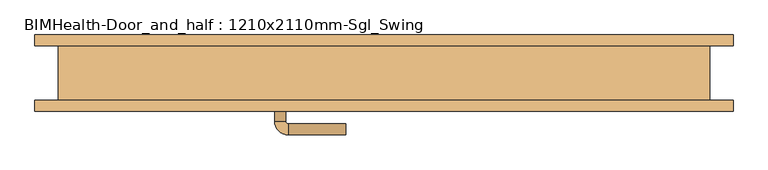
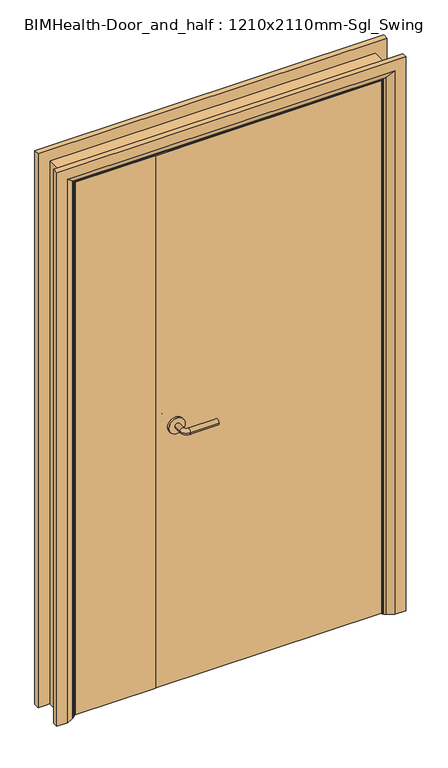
"""IFC4 building model written with IfcOpenShell, lengths in millimetres: door geometry, BIMHealth-Door_and_half : 1210x2110mm-Sgl_Swing."""

from ifc_helpers import new_model, si_unit, point, frame, frame_2d, origin, place, context, project, spatial, polyline, circle_curve, ellipse_curve, trimmed, segment, composite_curve, outline, extrude, faceted_brep, source, transform, mapped, element, save
from ifc_brep_helpers import plane_surface, cylinder_surface, revolved_surface, advanced_brep


def bimhealth_door_and_half_1210x2110mm_sgl_swing_70a7d20a(model_context):
    return source(origin(), model_context, "Body", "SolidModel", [
        advanced_brep(
        [(38.5, -10.0, 1000.0), (58.5, -10.0, 1000.0), (38.5, 20.0, 1000.0), (58.5, 20.0, 1000.0), (63.5, 25.0, 1000.0), (63.5, 45.0, 1000.0), (168.5, 45.0, 1000.0), (168.5, 25.0, 1000.0)],
        [
            (0, 1, circle_curve(frame((48.5, -10.0, 1000.0), z_axis=(0.0, -1.0, 0.0), x_axis=(1.0, 0.0, 0.0)), 10.0)),
            (1, 0, circle_curve(frame((48.5, -10.0, 1000.0), z_axis=(0.0, -1.0, 0.0), x_axis=(1.0, 0.0, 0.0)), 10.0)),
            (0, 2),
            (2, 3, circle_curve(frame((48.5, 20.0, 1000.0), z_axis=(0.0, -1.0, 0.0), x_axis=(1.0, 0.0, 0.0)), 10.0)),
            (3, 1),
            (3, 2, circle_curve(frame((48.5, 20.0, 1000.0), z_axis=(0.0, -1.0, 0.0), x_axis=(1.0, 0.0, 0.0)), 10.0)),
            (4, 3, circle_curve(frame((63.5, 20.0, 1000.0), z_axis=(0.0, 0.0, 1.0), x_axis=(-1.0, 0.0, 0.0)), 5.0)),
            (2, 5, circle_curve(frame((63.5, 20.0, 1000.0), z_axis=(0.0, 0.0, -1.0), x_axis=(-1.0, 0.0, 0.0)), 25.0)),
            (5, 4, circle_curve(frame((63.5, 35.0, 1000.0), z_axis=(-1.0, 0.0, 0.0), x_axis=(0.0, -1.0, 0.0)), 10.0)),
            (4, 5, circle_curve(frame((63.5, 35.0, 1000.0), z_axis=(-1.0, 0.0, 0.0), x_axis=(0.0, -1.0, 0.0)), 10.0)),
            (6, 7, circle_curve(frame((168.5, 35.0, 1000.0), z_axis=(1.0, 0.0, 0.0), x_axis=(0.0, -1.0, 0.0)), 10.0)),
            (7, 6, circle_curve(frame((168.5, 35.0, 1000.0), z_axis=(1.0, 0.0, 0.0), x_axis=(0.0, -1.0, 0.0)), 10.0)),
            (5, 6),
            (7, 4),
        ],
        [
            plane_surface(frame((48.5, -10.0, 1000.0), z_axis=(0.0, -1.0, 0.0), x_axis=(0.0, 0.0, 1.0))),
            cylinder_surface(frame((48.5, -10.0, 1000.0), z_axis=(0.0, -1.0, 0.0), x_axis=(1.0, 0.0, 0.0)), 10.0),
            revolved_surface(trimmed(ellipse_curve(frame((48.5, 20.0, 1000.0), z_axis=(0.0, -1.0, 0.0), x_axis=(1.0, 0.0, 0.0)), 10.0, 10.0), [point((38.5, 20.0, 1000.0))], [point((58.5, 20.0, 1000.0))], True, "CARTESIAN"), (63.5, 20.0, 1000.0), (0.0, 0.0, -1.0)),
            revolved_surface(trimmed(ellipse_curve(frame((48.5, 20.0, 1000.0), z_axis=(0.0, -1.0, 0.0), x_axis=(1.0, 0.0, 0.0)), 10.0, 10.0), [point((58.5, 20.0, 1000.0))], [point((38.5, 20.0, 1000.0))], True, "CARTESIAN"), (63.5, 20.0, 1000.0), (0.0, 0.0, -1.0)),
            plane_surface(frame((168.5, 35.0, 1000.0), z_axis=(1.0, 0.0, 0.0), x_axis=(0.0, 0.0, 1.0))),
            cylinder_surface(frame((63.5, 35.0, 1000.0), z_axis=(-1.0, 0.0, 0.0), x_axis=(0.0, -1.0, 0.0)), 10.0),
        ],
        [
            (0, [[1, 2]]),
            (1, [[-1, 3, 4, 5]]),
            (1, [[-2, -5, 6, -3]]),
            (2, [[7, -4, 8, 9]]),
            (3, [[-8, -6, -7, 10]]),
            (4, [[11, 12]]),
            (5, [[-9, 13, -12, 14]]),
            (5, [[-10, -14, -11, -13]]),
        ],
    ),
        extrude(outline(composite_curve([segment(trimmed(circle_curve(frame_2d((1000.0, 46.0)), 30.0), [point((1000.0, 16.0))], [point((1000.0, 76.0))], False, "CARTESIAN"), True, "CONTINUOUS"), segment(trimmed(circle_curve(frame_2d((1000.0, 46.0)), 30.0), [point((1000.0, 76.0))], [point((1000.0, 16.0))], False, "CARTESIAN"), True, "CONTINUOUS")], self_intersect=False)), frame((0.0, -18.0, 0.0), z_axis=(0.0, 1.0, 0.0), x_axis=(0.0, 0.0, 1.0)), (0.0, 0.0, 1.0), 8.0),
        advanced_brep(
        [(38.5, -58.0, 1000.0), (58.5, -58.0, 1000.0), (58.5, -88.0, 1000.0), (38.5, -88.0, 1000.0), (63.5, -93.0, 1000.0), (63.5, -113.0, 1000.0), (168.5, -113.0, 1000.0), (168.5, -93.0, 1000.0)],
        [
            (0, 1, circle_curve(frame((48.5, -58.0, 1000.0), z_axis=(0.0, 1.0, 0.0), x_axis=(1.0, 0.0, 0.0)), 10.0)),
            (1, 0, circle_curve(frame((48.5, -58.0, 1000.0), z_axis=(0.0, 1.0, 0.0), x_axis=(1.0, 0.0, 0.0)), 10.0)),
            (1, 2),
            (2, 3, circle_curve(frame((48.5, -88.0, 1000.0), z_axis=(0.0, 1.0, 0.0), x_axis=(1.0, 0.0, 0.0)), 10.0)),
            (3, 0),
            (3, 2, circle_curve(frame((48.5, -88.0, 1000.0), z_axis=(0.0, 1.0, 0.0), x_axis=(1.0, 0.0, 0.0)), 10.0)),
            (4, 5, circle_curve(frame((63.5, -103.0, 1000.0), z_axis=(-1.0, 0.0, 0.0), x_axis=(0.0, 1.0, 0.0)), 10.0)),
            (5, 3, circle_curve(frame((63.5, -88.0, 1000.0), z_axis=(0.0, 0.0, -1.0), x_axis=(-1.0, 0.0, 0.0)), 25.0)),
            (2, 4, circle_curve(frame((63.5, -88.0, 1000.0), z_axis=(0.0, 0.0, 1.0), x_axis=(-1.0, 0.0, 0.0)), 5.0)),
            (5, 4, circle_curve(frame((63.5, -103.0, 1000.0), z_axis=(-1.0, 0.0, 0.0), x_axis=(0.0, 1.0, 0.0)), 10.0)),
            (6, 7, circle_curve(frame((168.5, -103.0, 1000.0), z_axis=(1.0, 0.0, 0.0), x_axis=(0.0, 1.0, 0.0)), 10.0)),
            (7, 6, circle_curve(frame((168.5, -103.0, 1000.0), z_axis=(1.0, 0.0, 0.0), x_axis=(0.0, 1.0, 0.0)), 10.0)),
            (4, 7),
            (6, 5),
        ],
        [
            plane_surface(frame((48.5, -58.0, 1000.0), z_axis=(0.0, 1.0, 0.0), x_axis=(0.0, 0.0, 1.0))),
            cylinder_surface(frame((48.5, -58.0, 1000.0), z_axis=(0.0, 1.0, 0.0), x_axis=(1.0, 0.0, 0.0)), 10.0),
            revolved_surface(trimmed(ellipse_curve(frame((48.5, -88.0, 1000.0), z_axis=(0.0, -1.0, 0.0), x_axis=(1.0, 0.0, 0.0)), 10.0, 10.0), [point((38.5, -88.0, 1000.0))], [point((58.5, -88.0, 1000.0))], True, "CARTESIAN"), (63.5, -88.0, 1000.0), (0.0, 0.0, -1.0)),
            revolved_surface(trimmed(ellipse_curve(frame((48.5, -88.0, 1000.0), z_axis=(0.0, -1.0, 0.0), x_axis=(1.0, 0.0, 0.0)), 10.0, 10.0), [point((58.5, -88.0, 1000.0))], [point((38.5, -88.0, 1000.0))], True, "CARTESIAN"), (63.5, -88.0, 1000.0), (0.0, 0.0, -1.0)),
            plane_surface(frame((168.5, -103.0, 1000.0), z_axis=(1.0, 0.0, 0.0), x_axis=(0.0, 0.0, 1.0))),
            cylinder_surface(frame((63.5, -103.0, 1000.0), z_axis=(-1.0, 0.0, 0.0), x_axis=(0.0, 1.0, 0.0)), 10.0),
        ],
        [
            (0, [[1, 2]]),
            (1, [[3, 4, 5, -2]]),
            (1, [[-5, 6, -3, -1]]),
            (2, [[7, 8, -4, 9]]),
            (3, [[10, -9, -6, -8]]),
            (4, [[11, 12]]),
            (5, [[13, -11, 14, -7]]),
            (5, [[-14, -12, -13, -10]]),
        ],
    ),
        extrude(outline(composite_curve([segment(trimmed(circle_curve(frame_2d((1000.0, 46.0)), 30.0), [point((1000.0, 16.0))], [point((1000.0, 76.0))], False, "CARTESIAN"), True, "CONTINUOUS"), segment(trimmed(circle_curve(frame_2d((1000.0, 46.0)), 30.0), [point((1000.0, 76.0))], [point((1000.0, 16.0))], False, "CARTESIAN"), True, "CONTINUOUS")], self_intersect=False)), frame((0.0, -58.0, 0.0), z_axis=(0.0, 1.0, 0.0), x_axis=(0.0, 0.0, 1.0)), (0.0, 0.0, 1.0), 8.0),
        advanced_brep(
        [(-401.0, 70.0, 0.0), (-361.0, 70.0, 0.0), (-335.0, 56.0, 0.0), (-331.0, 50.0, 0.0), (-401.0, 50.0, 0.0), (-401.0, 50.0, 2145.0), (-401.0, 70.0, 2145.0), (-331.0, 50.0, 2075.0), (809.0, 50.0, 2075.0), (809.0, 50.0, 0.0), (879.0, 50.0, 0.0), (879.0, 50.0, 2145.0), (-335.0, 56.0, 2079.0), (-361.0, 70.0, 2105.0), (879.0, 70.0, 2145.0), (879.0, 70.0, 0.0), (839.0, 70.0, 0.0), (839.0, 70.0, 2105.0), (813.0, 56.0, 0.0), (813.0, 56.0, 2079.0)],
        [
            (0, 1),
            (1, 2),
            (2, 3, circle_curve(frame((-339.0, 49.0, 0.0), z_axis=(0.0, 0.0, -1.0), x_axis=(-1.0, 0.0, 0.0)), 8.0622577)),
            (3, 4),
            (4, 0),
            (4, 5),
            (5, 6),
            (6, 0),
            (3, 7),
            (7, 8),
            (8, 9),
            (9, 10),
            (10, 11),
            (11, 5),
            (2, 12),
            (12, 7, ellipse_curve(frame((-339.0, 49.0, 2083.0), z_axis=(-0.7071067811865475, 0.0, -0.7071067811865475), x_axis=(0.7071067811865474, 0.0, -0.7071067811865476)), 11.4017543, 8.0622577)),
            (1, 13),
            (13, 12),
            (6, 14),
            (14, 15),
            (15, 16),
            (16, 17),
            (17, 13),
            (10, 15),
            (14, 11),
            (9, 18, circle_curve(frame((817.0, 49.0, 0.0), z_axis=(0.0, 0.0, -1.0), x_axis=(1.0, 0.0, 0.0)), 8.0622577)),
            (18, 16),
            (19, 18),
            (8, 19, ellipse_curve(frame((817.0, 49.0, 2083.0), z_axis=(0.7071067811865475, 0.0, -0.7071067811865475), x_axis=(0.7071067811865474, 0.0, 0.7071067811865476)), 11.4017543, 8.0622577)),
            (19, 17),
            (12, 19),
        ],
        [
            plane_surface(frame((-331.0, 50.0, 0.0), z_axis=(0.0, 0.0, -1.0), x_axis=(0.0, 1.0, 0.0))),
            plane_surface(frame((-401.0, 70.0, 0.0), z_axis=(-1.0, 0.0, 0.0), x_axis=(0.0, 0.0, 1.0))),
            plane_surface(frame((-401.0, 50.0, 0.0), z_axis=(0.0, -1.0, 0.0), x_axis=(0.0, 0.0, 1.0))),
            cylinder_surface(frame((-339.0, 49.0, 0.0), z_axis=(0.0, 0.0, -1.0), x_axis=(-1.0, 0.0, 0.0)), 8.0622577),
            plane_surface(frame((-335.0, 56.0, 0.0), z_axis=(0.4740998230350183, 0.8804710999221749, 0.0), x_axis=(0.0, 0.0, 1.0))),
            plane_surface(frame((-361.0, 70.0, 0.0), z_axis=(0.0, 1.0, 0.0), x_axis=(0.0, 0.0, 1.0))),
            plane_surface(frame((879.0, 70.0, 2145.0), z_axis=(1.0, 0.0, 0.0), x_axis=(0.0, 0.0, -1.0))),
            plane_surface(frame((809.0, 50.0, 0.0), z_axis=(0.0, 0.0, -1.0), x_axis=(0.0, 1.0, 0.0))),
            cylinder_surface(frame((817.0, 49.0, 2075.0), z_axis=(0.0, 0.0, 1.0), x_axis=(1.0, 0.0, 0.0)), 8.0622577),
            plane_surface(frame((813.0, 56.0, 2079.0), z_axis=(-0.4740998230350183, 0.8804710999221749, 0.0), x_axis=(0.0, 0.0, -1.0))),
            plane_surface(frame((-401.0, 70.0, 2145.0), z_axis=(0.0, 0.0, 1.0), x_axis=(1.0, 0.0, 0.0))),
            cylinder_surface(frame((-331.0, 49.0, 2083.0), z_axis=(-1.0, 0.0, 0.0), x_axis=(0.0, 0.0, 1.0)), 8.0622577),
            plane_surface(frame((-335.0, 56.0, 2079.0), z_axis=(0.0, 0.8804710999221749, -0.4740998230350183), x_axis=(1.0, 0.0, 0.0))),
        ],
        [
            (0, [[1, 2, 3, 4, 5]]),
            (1, [[6, 7, 8, -5]]),
            (2, [[9, 10, 11, 12, 13, 14, -6, -4]]),
            (3, [[15, 16, -9, -3]]),
            (4, [[17, 18, -15, -2]]),
            (5, [[-8, 19, 20, 21, 22, 23, -17, -1]]),
            (6, [[-13, 24, -20, 25]]),
            (7, [[-24, -12, 26, 27, -21]]),
            (8, [[28, -26, -11, 29]]),
            (9, [[-22, -27, -28, 30]]),
            (10, [[-14, -25, -19, -7]]),
            (11, [[31, -29, -10, -16]]),
            (12, [[-23, -30, -31, -18]]),
        ],
    ),
        advanced_brep(
        [(879.0, -70.0, 0.0), (839.0, -70.0, 0.0), (813.0, -56.0, 0.0), (809.0, -50.0, 0.0), (879.0, -50.0, 0.0), (879.0, -50.0, 2145.0), (879.0, -70.0, 2145.0), (809.0, -50.0, 2075.0), (-331.0, -50.0, 2075.0), (-331.0, -50.0, 0.0), (-401.0, -50.0, 0.0), (-401.0, -50.0, 2145.0), (813.0, -56.0, 2079.0), (839.0, -70.0, 2105.0), (-401.0, -70.0, 2145.0), (-401.0, -70.0, 0.0), (-361.0, -70.0, 0.0), (-361.0, -70.0, 2105.0), (-335.0, -56.0, 0.0), (-335.0, -56.0, 2079.0)],
        [
            (0, 1),
            (1, 2),
            (2, 3, circle_curve(frame((817.0, -49.0, 0.0), z_axis=(0.0, 0.0, -1.0), x_axis=(1.0, 0.0, 0.0)), 8.0622577)),
            (3, 4),
            (4, 0),
            (4, 5),
            (5, 6),
            (6, 0),
            (3, 7),
            (7, 8),
            (8, 9),
            (9, 10),
            (10, 11),
            (11, 5),
            (2, 12),
            (12, 7, ellipse_curve(frame((817.0, -49.0, 2083.0), z_axis=(0.7071067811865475, 0.0, -0.7071067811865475), x_axis=(-0.7071067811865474, 0.0, -0.7071067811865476)), 11.4017543, 8.0622577)),
            (1, 13),
            (13, 12),
            (6, 14),
            (14, 15),
            (15, 16),
            (16, 17),
            (17, 13),
            (10, 15),
            (14, 11),
            (9, 18, circle_curve(frame((-339.0, -49.0, 0.0), z_axis=(0.0, 0.0, -1.0), x_axis=(-1.0, 0.0, 0.0)), 8.0622577)),
            (18, 16),
            (19, 18),
            (8, 19, ellipse_curve(frame((-339.0, -49.0, 2083.0), z_axis=(-0.7071067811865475, 0.0, -0.7071067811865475), x_axis=(-0.7071067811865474, 0.0, 0.7071067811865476)), 11.4017543, 8.0622577)),
            (19, 17),
            (12, 19),
        ],
        [
            plane_surface(frame((809.0, -50.0, 0.0), z_axis=(0.0, 0.0, -1.0), x_axis=(0.0, 1.0, 0.0))),
            plane_surface(frame((879.0, -70.0, 0.0), z_axis=(1.0, 0.0, 0.0), x_axis=(0.0, 0.0, 1.0))),
            plane_surface(frame((879.0, -50.0, 0.0), z_axis=(0.0, 1.0, 0.0), x_axis=(0.0, 0.0, 1.0))),
            cylinder_surface(frame((817.0, -49.0, 0.0), z_axis=(0.0, 0.0, -1.0), x_axis=(1.0, 0.0, 0.0)), 8.0622577),
            plane_surface(frame((813.0, -56.0, 0.0), z_axis=(-0.4740998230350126, -0.8804710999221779, 0.0), x_axis=(0.0, 0.0, 1.0))),
            plane_surface(frame((839.0, -70.0, 0.0), z_axis=(0.0, -1.0, 0.0), x_axis=(0.0, 0.0, 1.0))),
            plane_surface(frame((-401.0, -70.0, 2145.0), z_axis=(-1.0, 0.0, 0.0), x_axis=(0.0, 0.0, -1.0))),
            plane_surface(frame((-331.0, -50.0, 0.0), z_axis=(0.0, 0.0, -1.0), x_axis=(0.0, 1.0, 0.0))),
            cylinder_surface(frame((-339.0, -49.0, 2075.0), z_axis=(0.0, 0.0, 1.0), x_axis=(-1.0, 0.0, 0.0)), 8.0622577),
            plane_surface(frame((-335.0, -56.0, 2079.0), z_axis=(0.4740998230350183, -0.8804710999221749, 0.0), x_axis=(0.0, 0.0, -1.0))),
            plane_surface(frame((879.0, -70.0, 2145.0), z_axis=(0.0, 0.0, 1.0), x_axis=(-1.0, 0.0, 0.0))),
            cylinder_surface(frame((809.0, -49.0, 2083.0), z_axis=(1.0, 0.0, 0.0), x_axis=(0.0, 0.0, 1.0)), 8.0622577),
            plane_surface(frame((813.0, -56.0, 2079.0), z_axis=(0.0, -0.8804710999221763, -0.4740998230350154), x_axis=(-1.0, 0.0, 0.0))),
        ],
        [
            (0, [[1, 2, 3, 4, 5]]),
            (1, [[6, 7, 8, -5]]),
            (2, [[9, 10, 11, 12, 13, 14, -6, -4]]),
            (3, [[15, 16, -9, -3]]),
            (4, [[17, 18, -15, -2]]),
            (5, [[-8, 19, 20, 21, 22, 23, -17, -1]]),
            (6, [[-13, 24, -20, 25]]),
            (7, [[-24, -12, 26, 27, -21]]),
            (8, [[28, -26, -11, 29]]),
            (9, [[-22, -27, -28, 30]]),
            (10, [[-14, -25, -19, -7]]),
            (11, [[31, -29, -10, -16]]),
            (12, [[-23, -30, -31, -18]]),
        ],
    ),
        faceted_brep([(-307.0, -15.0, 0.0), (-326.0, -15.0, 0.0), (-326.0, 17.0, 0.0), (-307.0, 17.0, 0.0), (-307.0, 17.0, 2051.0), (-307.0, -15.0, 2051.0), (-326.0, 17.0, 2070.0), (-326.0, -15.0, 2070.0), (785.0, -15.0, 0.0), (785.0, 17.0, 0.0), (804.0, 17.0, 0.0), (804.0, -15.0, 0.0), (785.0, -15.0, 2051.0), (804.0, -15.0, 2070.0), (804.0, 17.0, 2070.0), (785.0, 17.0, 2051.0)], [[[0, 1, 2, 3]], [[3, 4, 5, 0]], [[2, 6, 4, 3]], [[1, 7, 6, 2]], [[0, 5, 7, 1]], [[8, 9, 10, 11]], [[12, 8, 11, 13]], [[13, 11, 10, 14]], [[14, 10, 9, 15]], [[15, 9, 8, 12]], [[4, 15, 12, 5]], [[6, 14, 15, 4]], [[7, 13, 14, 6]], [[5, 12, 13, 7]]]),
        extrude(outline(polyline([(2102.0, -358.0), (0.0, -358.0), (0.0, -326.0), (2070.0, -326.0), (2070.0, 804.0), (0.0, 804.0), (0.0, 836.0), (2102.0, 836.0), (2102.0, -358.0)])), frame((0.0, -50.0, 0.0), z_axis=(0.0, 1.0, 0.0), x_axis=(0.0, 0.0, 1.0)), (0.0, 0.0, 1.0), 100.0),
        extrude(outline(polyline([(-28.0, -18.0), (-28.0, -50.0), (-323.0, -50.0), (-323.0, -18.0), (-28.0, -18.0)])), frame((0.0, 0.0, 5.753223), z_axis=(0.0, 0.0, 1.0), x_axis=(1.0, 0.0, 0.0)), (0.0, 0.0, 1.0), 2061.246777),
        extrude(outline(polyline([(801.0, -18.0), (801.0, -50.0), (-25.0, -50.0), (-25.0, -18.0), (801.0, -18.0)])), frame((0.0, 0.0, 5.753223), z_axis=(0.0, 0.0, 1.0), x_axis=(1.0, 0.0, 0.0)), (0.0, 0.0, 1.0), 2061.246777),
    ])


if __name__ == "__main__":
    model = new_model("IFC4")
    model_context = context("Model", 3, world=origin())
    ifc_project = project(units=[si_unit("LENGTHUNIT", "METRE", prefix="MILLI")], contexts=[model_context])
    site = spatial("IfcSite", under=ifc_project)
    building = spatial("IfcBuilding", under=site)
    placement = place(None, origin())
    bimhealth_door_and_half_1210x2110mm_sgl_swing_shape = bimhealth_door_and_half_1210x2110mm_sgl_swing_70a7d20a(model_context)
    element("IfcDoor", 1, ObjectType="BIMHealth-Door_and_half : 1210x2110mm-Sgl_Swing", at=placement, inside=building, context=model_context, shape_type="MappedRepresentation", body=[
        mapped(bimhealth_door_and_half_1210x2110mm_sgl_swing_shape, transform((0.0, 0.0, 0.0), x_axis=(1.0, 0.0, 0.0), y_axis=(0.0, 1.0, 0.0), z_axis=(0.0, 0.0, 1.0))),
    ])
    save(model, "model.ifc")
